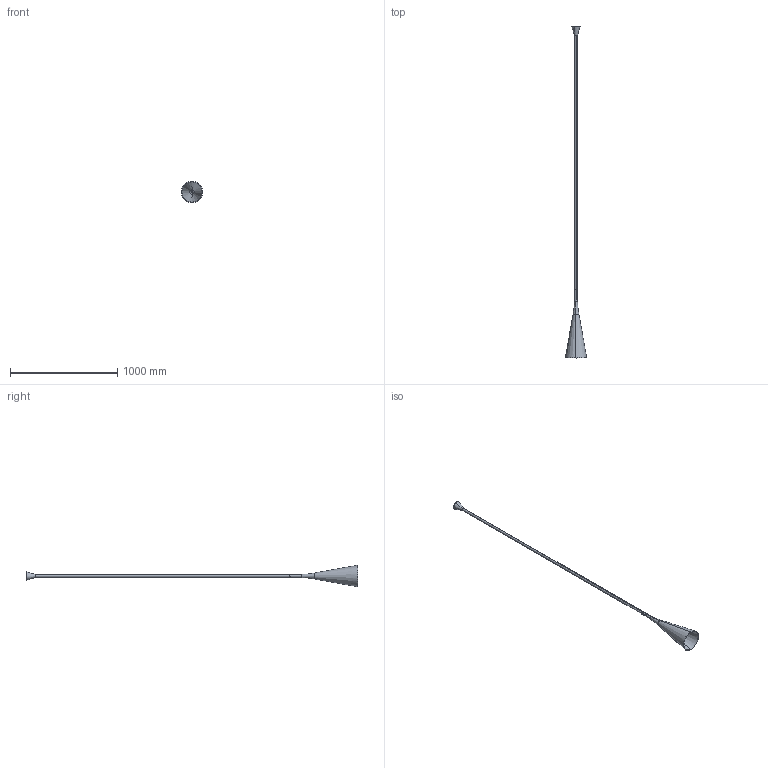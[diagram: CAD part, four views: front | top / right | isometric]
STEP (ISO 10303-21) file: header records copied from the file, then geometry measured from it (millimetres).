
FILE_DESCRIPTION (( 'STEP AP214' ), '1' );
FILE_NAME ('114_STD_W_PL_3D.STEP', '2021-05-24T13:27:01', ( '' ), ( '' ), 'SwSTEP 2.0', 'SolidWorks 2021', '' );
FILE_SCHEMA (( 'AUTOMOTIVE_DESIGN' ));
Length unit declared in the file: millimetre
Products named in the file (1): 114_STD_W_PL_3D
Bounding box: 199.95 x 3096.5 x 199.95 mm (x, y, z)
Volume: 1142141 mm3; surface area: 718802.5 mm2
Topology: 3 solids, 3 shells, 163 faces, 408 edges, 245 vertices
Faces by surface type: bspline 51, cylinder 39, torus 34, plane 25, cone 14
Entity records: 10395 total; most frequent: CARTESIAN_POINT 5169, ORIENTED_EDGE 804, DIRECTION 584, EDGE_CURVE 402, AXIS2_PLACEMENT_3D 252, VERTEX_POINT 245, EDGE_LOOP 177, UNCERTAINTY_MEASURE_WITH_UNIT 168
